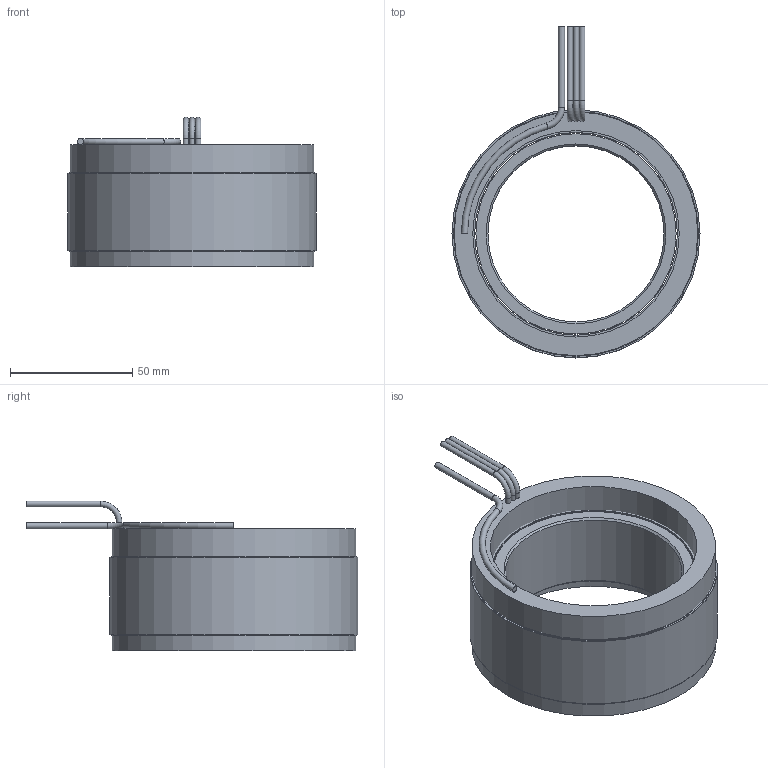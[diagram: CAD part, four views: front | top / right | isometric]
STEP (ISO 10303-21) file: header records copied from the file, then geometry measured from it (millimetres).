
FILE_DESCRIPTION (( 'STEP AP214' ), '1' );
FILE_NAME ('6100395-04.STEP', '2020-12-15T17:35:04', ( '' ), ( '' ), 'SwSTEP 2.0', 'SolidWorks 2016', '' );
FILE_SCHEMA (( 'AUTOMOTIVE_DESIGN' ));
Length unit declared in the file: inch
Products named in the file (10): 4500561-XX_4500561-04; 4450192-XX_4450192-04; 4250383-XX_4250383-04; 4400104-00; 4600568-00; 4150181-XX_4150181-04; 6100395-04; COMP4500561-XX(COIL)_COMP4500561-04(COIL)
Assembly tree (10 placements, depth 4):
  6100395-04
    4250383-XX_4250383-04
      4150181-XX_4150181-04
    4500561-XX_4500561-04
      4450192-XX_4450192-04
        4450192-XX_4450192-04
        4400104-00
        4400104-00
        4600568-00  x2
      COMP4500561-XX(COIL)_COMP4500561-04(COIL)
Bounding box: 101.6 x 135.89 x 61.34 mm (x, y, z)
Volume: 236120.9 mm3; surface area: 97580.6 mm2
Topology: 8 solids, 8 shells, 47 faces, 74 edges, 46 vertices
Faces by surface type: cylinder 21, plane 19, torus 5, cone 2
Full cylindrical faces by diameter (mm): 2.286 x6, 2.54 x1, 72.136 x1, 82.042 x1, 83.058 x5, 84.582 x1, 99.822 x1, 100.33 x2, 101.6 x3
Entity records: 1305 total; most frequent: DIRECTION 202, CARTESIAN_POINT 143, AXIS2_PLACEMENT_3D 101, EDGE_LOOP 84, ORIENTED_EDGE 84, FACE_OUTER_BOUND 67, ADVANCED_FACE 43, CIRCLE 42
